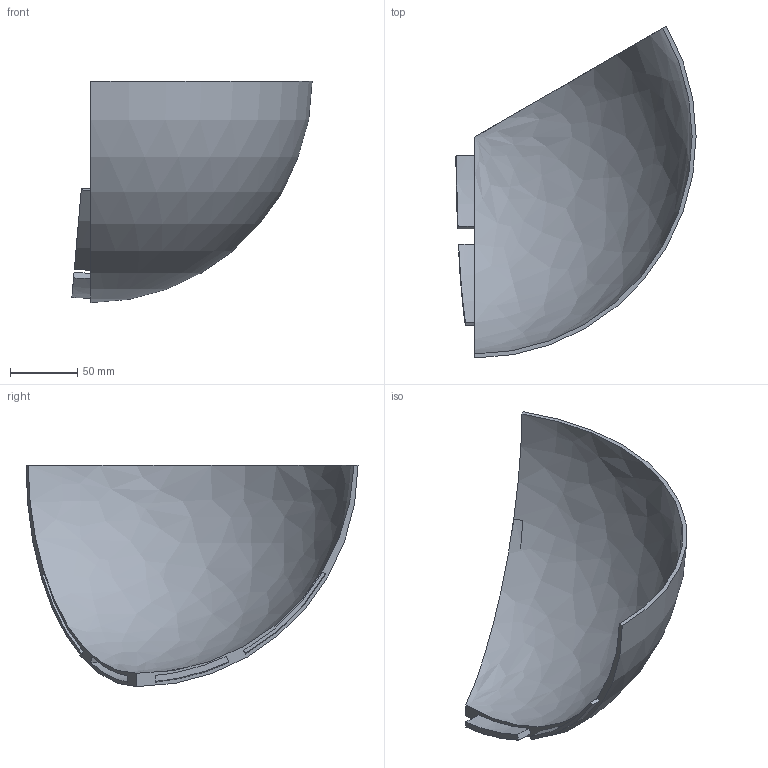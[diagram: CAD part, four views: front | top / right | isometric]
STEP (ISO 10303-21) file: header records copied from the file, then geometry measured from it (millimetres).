
FILE_DESCRIPTION(/* description */ (''),/* implementation_level */ '2;1');
FILE_NAME(/* name */ 'C:/Users/Rasika Jadhav/Downloads/Mission 2 FLoatSat/3 parts tb part 3 original v4.step',/* time_stamp */ '2022-05-16T03:15:53+02:00',/* author */ (''),/* organization */ (''),/* preprocessor_version */ 'ST-DEVELOPER v18.1',/* originating_system */ 'Autodesk Translation Framework v10.14.0.1471',/* authorisation */ '');
FILE_SCHEMA (('AUTOMOTIVE_DESIGN { 1 0 10303 214 3 1 1 }'));
Length unit declared in the file: millimetre
Products named in the file (1): 3 parts tb part 3 original
Bounding box: 179.09 x 247.5 x 165 mm (x, y, z)
Volume: 321653.5 mm3; surface area: 121240.4 mm2
Topology: 1 solids, 1 shells, 25 faces, 59 edges, 38 vertices
Faces by surface type: sphere 9, cone 8, plane 7, bspline 1
Entity records: 772 total; most frequent: DIRECTION 145, CARTESIAN_POINT 135, ORIENTED_EDGE 114, AXIS2_PLACEMENT_3D 63, EDGE_CURVE 57, CIRCLE 38, VERTEX_POINT 38, EDGE_LOOP 29
